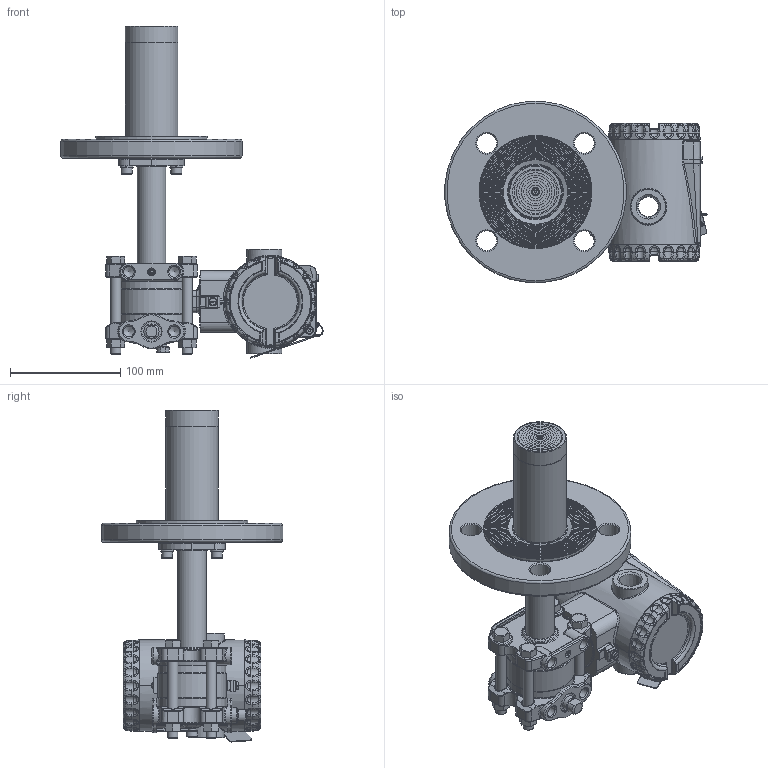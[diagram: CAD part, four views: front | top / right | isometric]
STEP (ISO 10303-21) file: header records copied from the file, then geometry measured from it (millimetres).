
FILE_DESCRIPTION(/* description */ (''),/* implementation_level */ '2;1');
FILE_NAME(/* name */ 'F:\Area\Desenvolvimento_2\Projects\Sensor\projetos\LD400-3d\dimensionais 3D clientes\LD400L\LD400L DN50 PN40 RF ext 100 ref 1-4NPT purga acima.stp',/* time_stamp */ '2023-02-23T17:08:56-03:00',/* author */ ('inventor02'),/* organization */ (''),/* preprocessor_version */ 'ST-DEVELOPER v17',/* originating_system */ 'Autodesk Inventor 2019',/* authorisation */ '');
FILE_SCHEMA (('CONFIG_CONTROL_DESIGN'));
Products named in the file (41): LD30XL DN50 PN40 RF ext 100 ref 1-4NPT purga acima; 204-0301-L-DN50 PN40 RF ext 100 purga acima; nivel fx3 com baixa diferencial 1-4NPT purga acima; involucro fx0-3 apos a usinagem final; flange diferencial std purga; 101-C-7484-01 flange selo nivel VR; 201-A-0504-tubo união teste 1; bujao 1-4NPT; Sangria; Porca 3-8 x 16 UNC; Paraf. 3-8 x 16 UNC; adaptação tubo x flanges 1-1-2 a 4pol; 101-B-0161-anel cortado do tubo - teste1; 101-B-0162-flange fixação tubo; ANSI B18.3.1M - M6x1 x 16; DIN 127 - A 6; flange DN50 PN40 ext 100; 101-C-0134-10; 101-B-7700-01-100; 101-B-0168-11; Carcaça 400 com tampas e plaqueta sem letras; 101-D-0845-05 carcaça LD400 sem letras; 101-B-3614-03-tampa 400 sem letras; Tampa visor 400 montada sem letras; 101-B-3612-05 tampa visor 400 sem letras; 101-A-6107; oring 2034; 00034775-0; WHW_250; DIN 915 - M6 x 10; Chapa aterramento externo; 201-A-1771-02 inserto terra recartilhado; AS 1969 - ST4,2; ISO 1207 - M4 x 8; ANSI B18.3.1M - M4x0,7 x 8; Subconjunto plaqueta 400; plaqueta 400 em branco; Parafuso da Plaqueta; Rebite da Plaqueta; 096-A-0169-03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
Assembly tree (50 placements, depth 4):
  LD30XL DN50 PN40 RF ext 100 ref 1-4NPT purga acima
    204-0301-L-DN50 PN40 RF ext 100 purga acima
      nivel fx3 com baixa diferencial 1-4NPT purga acima
        involucro fx0-3 apos a usinagem final
        flange diferencial std purga
        101-C-7484-01 flange selo nivel VR
        201-A-0504-tubo união teste 1
        DIN 915 - M6 x 10
        bujao 1-4NPT
        Sangria
        Porca 3-8 x 16 UNC  x4
        Paraf. 3-8 x 16 UNC  x4
      adaptação tubo x flanges 1-1-2 a 4pol
        101-B-0161-anel cortado do tubo - teste1
        101-B-0162-flange fixação tubo
        ANSI B18.3.1M - M6x1 x 16  x2
        DIN 127 - A 6  x2
      flange DN50 PN40 ext 100
        101-C-0134-10
        101-B-7700-01-100
        101-B-0168-11
    Carcaça 400 com tampas e plaqueta sem letras
      101-D-0845-05 carcaça LD400 sem letras
      101-B-3614-03-tampa 400 sem letras
      Tampa visor 400 montada sem letras
        101-B-3612-05 tampa visor 400 sem letras
        101-A-6107
        oring 2034
        00034775-0
        WHW_250
      DIN 915 - M6 x 10
      Chapa aterramento externo
      201-A-1771-02 inserto terra recartilhado
      AS 1969 - ST4,2
      ISO 1207 - M4 x 8
      ANSI B18.3.1M - M4x0,7 x 8  x2
      Subconjunto plaqueta 400
        plaqueta 400 em branco
        Parafuso da Plaqueta
        Rebite da Plaqueta
        096-A-0169-03
        101-A-0502-01
Bounding box: 237.93 x 164.37 x 301.42 mm (x, y, z)
Volume: 1058040.1 mm3; surface area: 345530.1 mm2
Topology: 43 solids, 43 shells, 2797 faces, 6756 edges, 4058 vertices
Faces by surface type: plane 739, cylinder 664, bspline 604, torus 492, cone 222, sphere 76
Full cylindrical faces by diameter (mm): 2 x4, 2.1 x1, 2.2 x1, 2.459 x3, 2.5 x1, 2.7 x1, 2.8 x1, 3 x4, 3.242 x3, 3.5 x1, 3.571 x1, 4 x5, 4.3 x2, 4.4 x1, 4.917 x4, 5 x1, 5.5 x3, 6 x6, 6.1 x2, 6.2 x1, 6.647 x1, 7 x5, 7.6 x2, 7.798 x4, 8 x1, 9.525 x4, 9.728 x6, 10 x2, 10.5 x8, 10.719 x2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
Entity records: 99352 total; most frequent: CARTESIAN_POINT 37173, DIRECTION 12850, ORIENTED_EDGE 12752, EDGE_CURVE 6376, AXIS2_PLACEMENT_3D 5514, VERTEX_POINT 3864, CIRCLE 3204, EDGE_LOOP 2850
